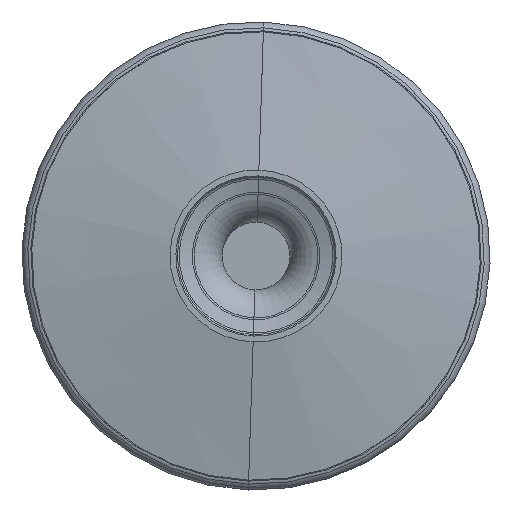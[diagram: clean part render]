
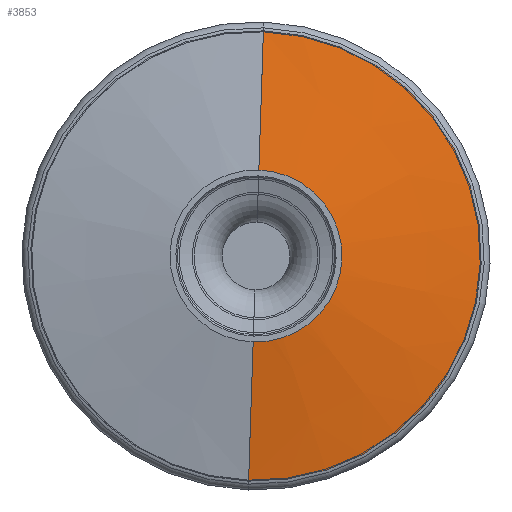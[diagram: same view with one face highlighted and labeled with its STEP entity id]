
A CAD part, front view. The second image highlights one B-rep face of the part: STEP entity #3853.
In plain terms, the highlighted conical face has half-angle 80.68 degrees and reference radius 85.148 mm.
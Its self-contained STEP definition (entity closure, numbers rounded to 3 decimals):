
#421 = VERTEX_POINT ( 'NONE', #3453 ) ;
#513 = EDGE_CURVE ( 'NONE', #6527, #7201, #1369, .T. ) ;
#591 = EDGE_CURVE ( 'NONE', #421, #1558, #595, .T. ) ;
#594 = DIRECTION ( 'NONE',  ( 0., 0., -1. ) ) ;
#595 = CIRCLE ( 'NONE', #7592, 85.148 ) ;
#799 = EDGE_LOOP ( 'NONE', ( #4265, #1868, #6456, #4353 ) ) ;
#1137 = VECTOR ( 'NONE', #4488, 1000. ) ;
#1236 = CARTESIAN_POINT ( 'NONE',  ( 0., 90.553, -85.148 ) ) ;
#1369 = CIRCLE ( 'NONE', #2403, 25.895 ) ;
#1515 = AXIS2_PLACEMENT_3D ( 'NONE', #4760, #7150, #5415 ) ;
#1558 = VERTEX_POINT ( 'NONE', #3144 ) ;
#1696 = FACE_OUTER_BOUND ( 'NONE', #799, .T. ) ;
#1837 = DIRECTION ( 'NONE',  ( 0., -1., 0. ) ) ;
#1868 = ORIENTED_EDGE ( 'NONE', *, *, #2580, .T. ) ;
#2398 = CARTESIAN_POINT ( 'NONE',  ( 0., 80.828, -25.895 ) ) ;
#2403 = AXIS2_PLACEMENT_3D ( 'NONE', #2458, #4332, #594 ) ;
#2458 = CARTESIAN_POINT ( 'NONE',  ( 0., 80.828, 0. ) ) ;
#2580 = EDGE_CURVE ( 'NONE', #6527, #421, #6705, .T. ) ;
#3144 = CARTESIAN_POINT ( 'NONE',  ( 0., 90.553, 85.148 ) ) ;
#3453 = CARTESIAN_POINT ( 'NONE',  ( 0., 90.553, -85.148 ) ) ;
#3553 = EDGE_CURVE ( 'NONE', #7201, #1558, #4317, .T. ) ;
#3577 = VECTOR ( 'NONE', #6147, 1000. ) ;
#3651 = CARTESIAN_POINT ( 'NONE',  ( 0., 90.553, 0. ) ) ;
#3682 = CARTESIAN_POINT ( 'NONE',  ( 0., 90.553, 85.148 ) ) ;
#3696 = DIRECTION ( 'NONE',  ( 0., 0., -1. ) ) ;
#3853 = ADVANCED_FACE ( 'NONE', ( #1696 ), #6361, .T. ) ;
#4265 = ORIENTED_EDGE ( 'NONE', *, *, #513, .F. ) ;
#4317 = LINE ( 'NONE', #3682, #3577 ) ;
#4332 = DIRECTION ( 'NONE',  ( 0., -1., 0. ) ) ;
#4353 = ORIENTED_EDGE ( 'NONE', *, *, #3553, .F. ) ;
#4488 = DIRECTION ( 'NONE',  ( 0., 0.162, -0.987 ) ) ;
#4760 = CARTESIAN_POINT ( 'NONE',  ( 0., 90.553, 0. ) ) ;
#5415 = DIRECTION ( 'NONE',  ( 0., 0., 1. ) ) ;
#5791 = CARTESIAN_POINT ( 'NONE',  ( 0., 80.828, 25.895 ) ) ;
#6147 = DIRECTION ( 'NONE',  ( 0., 0.162, 0.987 ) ) ;
#6361 = CONICAL_SURFACE ( 'NONE', #1515, 85.148, 1.408 ) ;
#6456 = ORIENTED_EDGE ( 'NONE', *, *, #591, .T. ) ;
#6527 = VERTEX_POINT ( 'NONE', #2398 ) ;
#6705 = LINE ( 'NONE', #1236, #1137 ) ;
#7150 = DIRECTION ( 'NONE',  ( 0., 1., 0. ) ) ;
#7201 = VERTEX_POINT ( 'NONE', #5791 ) ;
#7592 = AXIS2_PLACEMENT_3D ( 'NONE', #3651, #1837, #3696 ) ;
